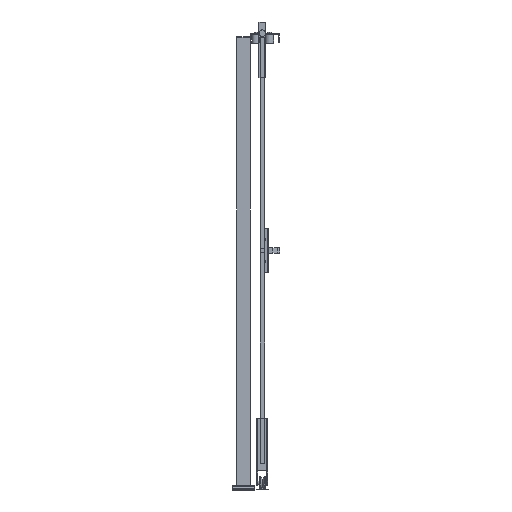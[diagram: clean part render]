
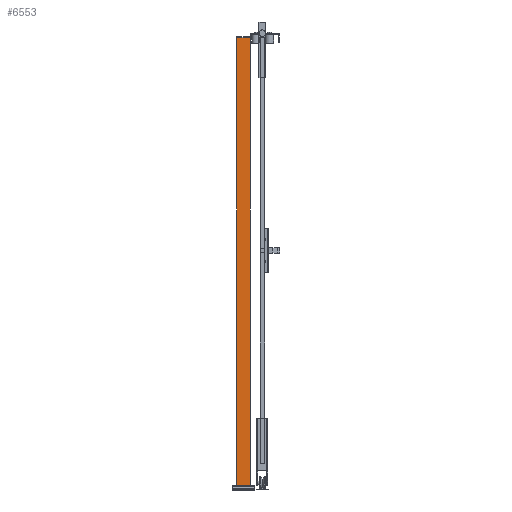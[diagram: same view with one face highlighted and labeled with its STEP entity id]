
A CAD part, left-side view. The second image highlights one B-rep face of the part: STEP entity #6553.
In plain terms, the highlighted planar face has unit normal (-1, 0, 0) as drawn and (0, 1, 0) by its records, which use the part's own axes.
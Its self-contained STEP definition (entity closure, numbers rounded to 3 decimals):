
#667=FACE_OUTER_BOUND('',#1139,.T.);
#1139=EDGE_LOOP('',(#4017,#4018,#4019,#4020));
#1676=VERTEX_POINT('',#13083);
#1677=VERTEX_POINT('',#13085);
#1679=VERTEX_POINT('',#13091);
#1682=VERTEX_POINT('',#13096);
#2632=EDGE_CURVE('',#1676,#1677,#7481,.T.);
#2638=EDGE_CURVE('',#1682,#1679,#7487,.T.);
#2641=EDGE_CURVE('',#1677,#1682,#7490,.T.);
#2642=EDGE_CURVE('',#1676,#1679,#7491,.T.);
#4017=ORIENTED_EDGE('',*,*,#2642,.T.);
#4018=ORIENTED_EDGE('',*,*,#2638,.F.);
#4019=ORIENTED_EDGE('',*,*,#2641,.F.);
#4020=ORIENTED_EDGE('',*,*,#2632,.F.);
#6145=PLANE('',#9462);
#6553=ADVANCED_FACE('',(#667),#6145,.F.);
#7481=LINE('',#13086,#8526);
#7487=LINE('',#13098,#8532);
#7490=LINE('',#13103,#8535);
#7491=LINE('',#13105,#8536);
#8526=VECTOR('',#10414,1.);
#8532=VECTOR('',#10422,1.);
#8535=VECTOR('',#10429,1.);
#8536=VECTOR('',#10432,1.);
#9462=AXIS2_PLACEMENT_3D('',#13104,#10430,#10431);
#10414=DIRECTION('',(-1.,0.,0.));
#10422=DIRECTION('',(1.,0.,0.));
#10429=DIRECTION('',(0.,0.,-1.));
#10430=DIRECTION('center_axis',(0.,-1.,0.));
#10431=DIRECTION('ref_axis',(0.,0.,-1.));
#10432=DIRECTION('',(0.,0.,-1.));
#13083=CARTESIAN_POINT('',(30.,30.,2020.));
#13085=CARTESIAN_POINT('',(-30.,30.,2020.));
#13086=CARTESIAN_POINT('',(0.,30.,2020.));
#13091=CARTESIAN_POINT('',(30.,30.,20.));
#13096=CARTESIAN_POINT('',(-30.,30.,20.));
#13098=CARTESIAN_POINT('',(0.,30.,20.));
#13103=CARTESIAN_POINT('',(-30.,30.,1020.));
#13104=CARTESIAN_POINT('Origin',(0.,30.,
1020.));
#13105=CARTESIAN_POINT('',(30.,30.,1020.));
